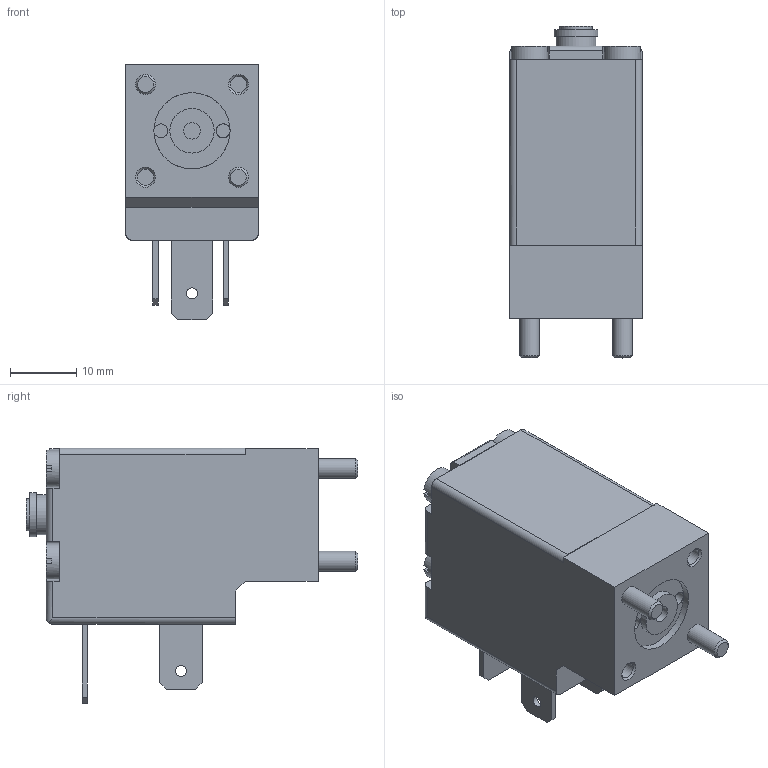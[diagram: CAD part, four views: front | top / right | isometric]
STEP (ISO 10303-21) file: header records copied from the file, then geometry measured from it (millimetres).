
FILE_DESCRIPTION( ( 'STEP AP214' ), '1' );
FILE_NAME( 'p:/temp/worker_8/temp/app_61_02018102714410214251531192d056f_000000_00_00_000000/format_0/2871-236272-22_2-way_proportional_valve.stp', '2018-10-27T12:41:02', ( '' ), ( '' ), ' ', 'PARTsolutions', ' ' );
FILE_SCHEMA( ( 'AUTOMOTIVE_DESIGN { 1 0 10303 214 1 1 1 1 }' ) );
Length unit declared in the file: millimetre
Products named in the file (2): 2871-236272-22/2-way proportional valve; HI_2871-236272-2/2-Wege-Proportionalventilt
Assembly tree (1 placements, depth 2):
  2871-236272-22/2-way proportional valve
    HI_2871-236272-2/2-Wege-Proportionalventilt
Bounding box: 20 x 50.05 x 38.55 mm (x, y, z)
Volume: 20060.9 mm3; surface area: 5882.5 mm2
Topology: 1 solids, 1 shells, 124 faces, 304 edges, 201 vertices
Faces by surface type: plane 86, cylinder 34, cone 4
Full cylindrical faces by diameter (mm): 1.65 x3, 2.1 x2, 2.45 x1, 2.459 x2, 2.5 x1, 3 x2, 4.84 x1, 5.5 x4, 6 x1, 6.6 x1, 6.7 x1, 11.5 x1
Entity records: 4487 total; most frequent: DIRECTION 609, CARTESIAN_POINT 587, ORIENTED_EDGE 540, EDGE_CURVE 270, AXIS2_PLACEMENT_3D 213, VERTEX_POINT 191, LINE 183, VECTOR 183
